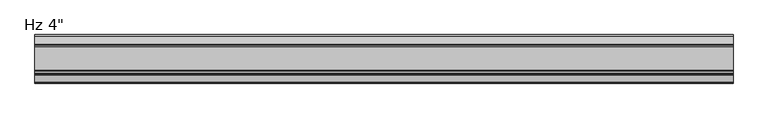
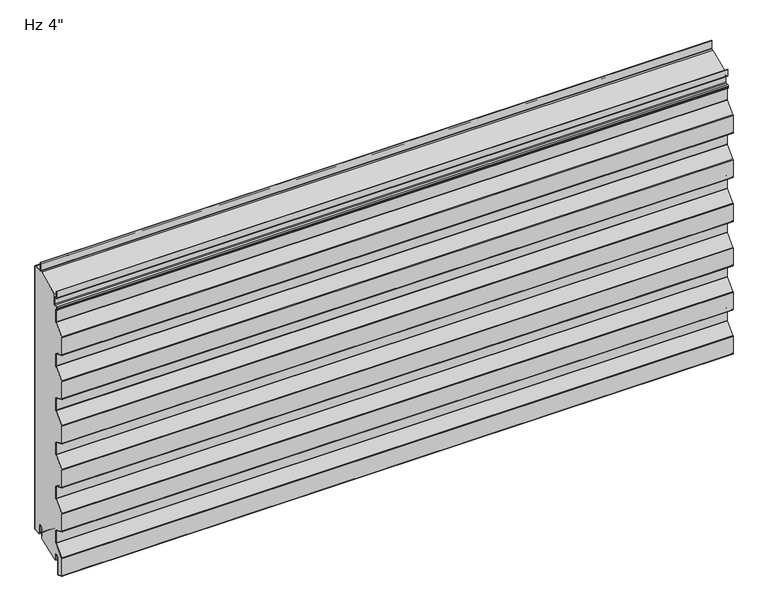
"""IFC4 building model written with IfcOpenShell, lengths in millimetres: plate geometry."""

import ifcopenshell
import ifcopenshell.guid

model = None  # the IFC model being written
_history = None  # IfcOwnerHistory: only IFC2X3 demands one
_inside = {}  # id of a spatial element -> (the spatial element, [elements in it])
_under = {}  # id of a project, library or spatial element -> (it, [spatial elements below it])
_declared = {}  # id of a project -> (the project, [libraries it declares])
_typed = {}  # id of a type object -> (the type object, [elements of that type])
_made_of = {}  # id of a material, layer set ... -> (it, [elements and type objects made of it])


def new_model(schema):
    """Start an empty IFC model of exactly this schema.

    Asked for "IFC4X3", IfcOpenShell would pick the latest addendum, in which some entities
    have other attributes; the version numbers below select the first issue.
    IFC2X3 requires an IfcOwnerHistory on every rooted entity: one is made here for all.
    """
    global model, _history
    if schema == "IFC4X3":
        model = ifcopenshell.file(schema_version=(4, 3, 0, 0))
    else:
        model = ifcopenshell.file(schema=schema)
    _inside.clear()
    _under.clear()
    _declared.clear()
    _typed.clear()
    _made_of.clear()
    _history = None
    if model.schema == "IFC2X3":
        org = make("IfcOrganization", Name="unknown")
        user = make(
            "IfcPersonAndOrganization",
            ThePerson=make("IfcPerson", FamilyName="unknown"),
            TheOrganization=org,
        )
        app = make(
            "IfcApplication",
            ApplicationDeveloper=org,
            Version="unknown",
            ApplicationFullName="unknown",
            ApplicationIdentifier="unknown",
        )
        _history = make(
            "IfcOwnerHistory",
            OwningUser=user,
            OwningApplication=app,
            ChangeAction="ADDED",
            CreationDate=0,
        )
    return model


def make(cls, **values):
    """One entity of the class cls with the attributes given. An attribute that is None is left unset."""
    return model.create_entity(
        cls, **{name: value for name, value in values.items() if value is not None}
    )


def rooted(cls, **values):
    """An entity with a GlobalId (a new one), such as an element, a storey or a relation."""
    return make(cls, GlobalId=ifcopenshell.guid.new(), OwnerHistory=_history, **values)


def si_unit(unit_type, name, prefix=None):
    """IfcSIUnit, for example si_unit("LENGTHUNIT", "METRE", prefix="MILLI")."""
    return make("IfcSIUnit", UnitType=unit_type, Prefix=prefix, Name=name)


def assignment(units):
    """IfcUnitAssignment: the units of a project."""
    return None if units is None else make("IfcUnitAssignment", Units=units)


def point(xyz):
    """IfcCartesianPoint."""
    return None if xyz is None else make("IfcCartesianPoint", Coordinates=xyz)


def direction(xyz):
    """IfcDirection."""
    return None if xyz is None else make("IfcDirection", DirectionRatios=xyz)


def frame(location, z_axis=None, x_axis=None):
    """IfcAxis2Placement3D, a coordinate frame: its origin and axes. An axis left out is left unset."""
    return make(
        "IfcAxis2Placement3D",
        Location=point(location),
        Axis=direction(z_axis),
        RefDirection=direction(x_axis),
    )


def frame_2d(location, x_axis=None):
    """IfcAxis2Placement2D, a coordinate frame in the plane: its origin and x axis."""
    return make(
        "IfcAxis2Placement2D", Location=point(location), RefDirection=direction(x_axis)
    )


def origin():
    """The frame at (0, 0, 0) with its axes left unset."""
    return frame((0.0, 0.0, 0.0))


def place(relative_to, where):
    """IfcLocalPlacement: puts the frame where relative to a parent placement (None: the world)."""
    return make(
        "IfcLocalPlacement", PlacementRelTo=relative_to, RelativePlacement=where
    )


def context(
    kind, dimensions, precision=None, world=None, true_north=None, identifier=None
):
    """IfcGeometricRepresentationContext, for example the 3D "Model" context."""
    return make(
        "IfcGeometricRepresentationContext",
        ContextIdentifier=identifier,
        ContextType=kind,
        CoordinateSpaceDimension=dimensions,
        Precision=precision,
        WorldCoordinateSystem=world,
        TrueNorth=true_north,
    )


def project(units=None, contexts=None):
    """IfcProject with its units and contexts."""
    return rooted(
        "IfcProject",
        Name="project",
        RepresentationContexts=contexts,
        UnitsInContext=assignment(units),
    )


def spatial(cls, under=None, at=None, **own):
    """A site, building, storey or space (cls), placed at a placement, below another one or the project."""
    s = rooted(cls, ObjectPlacement=at, **own)
    if under is not None:
        _under.setdefault(under.id(), (under, []))[1].append(s)
    return s


def polyline(points):
    """IfcPolyline through the points."""
    return make("IfcPolyline", Points=[point(p) for p in points])


def circle_curve(where, radius):
    """IfcCircle in the frame where."""
    return make("IfcCircle", Position=where, Radius=radius)


def trimmed(basis, trim1, trim2, sense, master):
    """IfcTrimmedCurve: the piece of a basis curve between two trims."""
    return make(
        "IfcTrimmedCurve",
        BasisCurve=basis,
        Trim1=trim1,
        Trim2=trim2,
        SenseAgreement=sense,
        MasterRepresentation=master,
    )


def segment(curve, same_sense, transition):
    """IfcCompositeCurveSegment."""
    return make(
        "IfcCompositeCurveSegment",
        Transition=transition,
        SameSense=same_sense,
        ParentCurve=curve,
    )


def composite_curve(segments, self_intersect=None):
    """IfcCompositeCurve: segments joined end to end."""
    return make("IfcCompositeCurve", Segments=segments, SelfIntersect=self_intersect)


def outline(outer, holes=None, kind="AREA"):
    """IfcArbitraryClosedProfileDef: a profile drawn as a closed curve; with holes, ...WithVoids."""
    if holes is None:
        return make("IfcArbitraryClosedProfileDef", ProfileType=kind, OuterCurve=outer)
    return make(
        "IfcArbitraryProfileDefWithVoids",
        ProfileType=kind,
        OuterCurve=outer,
        InnerCurves=holes,
    )


def extrude(swept, where, along, depth):
    """IfcExtrudedAreaSolid: the profile swept, set in the frame where, extruded along a direction by depth."""
    return make(
        "IfcExtrudedAreaSolid",
        SweptArea=swept,
        Position=where,
        ExtrudedDirection=direction(along),
        Depth=depth,
    )


def shape(context_of_items, identifier, shape_type, items):
    """IfcShapeRepresentation: the items that make up one representation, for example the "Body"."""
    return make(
        "IfcShapeRepresentation",
        ContextOfItems=context_of_items,
        RepresentationIdentifier=identifier,
        RepresentationType=shape_type,
        Items=items,
    )


def source(mapping_origin, context_of_items, identifier, shape_type, items):
    """IfcRepresentationMap: a shape defined once, which mapped items show again and again."""
    return make(
        "IfcRepresentationMap",
        MappingOrigin=mapping_origin,
        MappedRepresentation=shape(context_of_items, identifier, shape_type, items),
    )


def transform(
    local_origin,
    x_axis=None,
    y_axis=None,
    z_axis=None,
    scale=None,
    scale2=None,
    scale3=None,
    uniform=True,
):
    """IfcCartesianTransformationOperator3D, or its non-uniform kind. x_axis, y_axis, z_axis: its Axis1, 2, 3."""
    if uniform:
        return make(
            "IfcCartesianTransformationOperator3D",
            Axis1=direction(x_axis),
            Axis2=direction(y_axis),
            LocalOrigin=point(local_origin),
            Scale=scale,
            Axis3=direction(z_axis),
        )
    return make(
        "IfcCartesianTransformationOperator3DnonUniform",
        Axis1=direction(x_axis),
        Axis2=direction(y_axis),
        LocalOrigin=point(local_origin),
        Scale=scale,
        Axis3=direction(z_axis),
        Scale2=scale2,
        Scale3=scale3,
    )


def mapped(mapping_source, mapping_target):
    """IfcMappedItem: shows the shape of a source again, moved by a transform."""
    return make(
        "IfcMappedItem", MappingSource=mapping_source, MappingTarget=mapping_target
    )


def made_of(thing, what):
    """Note that an element or type object is made of a material, layer set ...; save() writes the relation."""
    if what is not None:
        _made_of.setdefault(what.id(), (what, []))[1].append(thing)
    return thing


def element(
    cls,
    number,
    at=None,
    inside=None,
    cuts=None,
    type_object=None,
    material=None,
    context=None,
    identifier="Body",
    shape_type=None,
    held_by="IfcProductDefinitionShape",
    body=None,
    shapes=None,
    **own,
):
    """One element of the class cls, such as IfcWall. Its Tag is "e" and its number.

    at: its placement. inside: the storey or other place that contains it. cuts: it is an
    opening in that element (IfcRelVoidsElement). A single representation is given by context,
    identifier, shape_type and body (its items); several are given by shapes. held_by: the class
    of the entity that holds the representations. save() writes the other relations.
    """
    e = rooted(cls, Tag="e%d" % number, ObjectPlacement=at, **own)
    if body is not None:
        shapes = [shape(context, identifier, shape_type, body)]
    if shapes is not None:
        e.Representation = make(held_by, Representations=shapes)
    if inside is not None:
        _inside.setdefault(inside.id(), (inside, []))[1].append(e)
    if cuts is not None:
        rooted(
            "IfcRelVoidsElement", RelatingBuildingElement=cuts, RelatedOpeningElement=e
        )
    if type_object is not None:
        _typed.setdefault(type_object.id(), (type_object, []))[1].append(e)
    return made_of(e, material)


def aggregate(whole, parts):
    """IfcRelAggregates: a whole, such as a stair, and the parts it consists of."""
    return rooted("IfcRelAggregates", RelatingObject=whole, RelatedObjects=parts)


def save(model, path):
    """Write the relations noted so far, then the file.

    IfcRelAggregates (storeys below a building ...), IfcRelContainedInSpatialStructure (elements
    in a storey), IfcRelDefinesByType, IfcRelAssociatesMaterial and IfcRelDeclares: one each for
    every whole, place, type object, material and project.
    """
    for whole, parts in _under.values():
        aggregate(whole, parts)
    for where, things in _inside.values():
        rooted(
            "IfcRelContainedInSpatialStructure",
            RelatedElements=things,
            RelatingStructure=where,
        )
    for kind, things in _typed.values():
        rooted("IfcRelDefinesByType", RelatedObjects=things, RelatingType=kind)
    for what, things in _made_of.values():
        rooted("IfcRelAssociatesMaterial", RelatedObjects=things, RelatingMaterial=what)
    for by, libraries in _declared.values():
        rooted("IfcRelDeclares", RelatingContext=by, RelatedDefinitions=libraries)
    model.write(path)


def plate_ecc888f3(model_context):
    return source(origin(), model_context, "Body", "SweptSolid", [
        extrude(outline(composite_curve([segment(polyline([(-26.4011912, 19.05), (-26.4011912, -3.1976612), (-74.633822, -23.01875), (-76.7886912, -23.01875), (-76.7886912, -11.90625)]), True, "CONTINUOUS"), segment(trimmed(circle_curve(frame_2d((-81.7574412, -11.90625)), 4.96875), [point((-76.7886912, -11.90625))], [point((-86.7261912, -11.90625))], True, "CARTESIAN"), True, "CONTINUOUS"), segment(polyline([(-86.7261912, -11.90625), (-86.7261912, -48.8194049)]), True, "CONTINUOUS"), segment(trimmed(circle_curve(frame_2d((-88.1074412, -48.8194049)), 1.38125), [point((-86.7261912, -48.8194049))], [point((-88.6666208, -50.0824052))], False, "CARTESIAN"), True, "CONTINUOUS"), segment(polyline([(-88.6666208, -50.0824052), (-99.7779296, -45.1629946)]), True, "CONTINUOUS"), segment(trimmed(circle_curve(frame_2d((-99.21875, -43.8999943)), 1.38125), [point((-99.7779296, -45.1629946))], [point((-100.6, -43.8999943))], False, "CARTESIAN"), True, "CONTINUOUS"), segment(polyline([(-100.6, -43.8999943), (-100.6, -5.0536946)]), True, "CONTINUOUS"), segment(trimmed(circle_curve(frame_2d((-98.5012, -5.0536946)), 2.0988), [point((-100.6, -5.0536946))], [point((-100.0092077, -3.5939431))], False, "CARTESIAN"), True, "CONTINUOUS"), segment(polyline([(-100.0092077, -3.5939431), (-79.8145567, 17.2682996)]), True, "CONTINUOUS"), segment(trimmed(circle_curve(frame_2d((-81.6737, 19.0679503)), 2.5875), [point((-79.8145567, 17.2682996))], [point((-79.0862, 19.0679503))], True, "CARTESIAN"), True, "CONTINUOUS"), segment(polyline([(-79.0862, 19.0679503), (-79.0862, 45.5917981)]), True, "CONTINUOUS"), segment(trimmed(circle_curve(frame_2d((-81.6737, 45.5917981)), 2.5875), [point((-79.0862, 45.5917981))], [point((-80.6261871, 47.9577806))], True, "CARTESIAN"), True, "CONTINUOUS"), segment(polyline([(-80.6261871, 47.9577806), (-99.7779296, 56.4370054)]), True, "CONTINUOUS"), segment(trimmed(circle_curve(frame_2d((-99.21875, 57.7000057)), 1.38125), [point((-99.7779296, 56.4370054))], [point((-100.6, 57.7000057))], False, "CARTESIAN"), True, "CONTINUOUS"), segment(polyline([(-100.6, 57.7000057), (-100.6, 96.8367131)]), True, "CONTINUOUS"), segment(trimmed(circle_curve(frame_2d((-99.21875, 96.8367131)), 1.38125), [point((-100.6, 96.8367131))], [point((-100.2111912, 97.7973962))], False, "CARTESIAN"), True, "CONTINUOUS"), segment(polyline([(-100.2111912, 97.7973962), (-79.8145567, 118.8682996)]), True, "CONTINUOUS"), segment(trimmed(circle_curve(frame_2d((-81.6737, 120.6679503)), 2.5875), [point((-79.8145567, 118.8682996))], [point((-79.0862, 120.6679503))], True, "CARTESIAN"), True, "CONTINUOUS"), segment(polyline([(-79.0862, 120.6679503), (-79.0862, 147.1917981)]), True, "CONTINUOUS"), segment(trimmed(circle_curve(frame_2d((-81.6737, 147.1917981)), 2.5875), [point((-79.0862, 147.1917981))], [point((-80.6261871, 149.5577806))], True, "CARTESIAN"), True, "CONTINUOUS"), segment(polyline([(-80.6261871, 149.5577806), (-99.7779296, 158.0370054)]), True, "CONTINUOUS"), segment(trimmed(circle_curve(frame_2d((-99.21875, 159.3000057)), 1.38125), [point((-99.7779296, 158.0370054))], [point((-100.6, 159.3000057))], False, "CARTESIAN"), True, "CONTINUOUS"), segment(polyline([(-100.6, 159.3000057), (-100.6, 198.4367131)]), True, "CONTINUOUS"), segment(trimmed(circle_curve(frame_2d((-99.21875, 198.4367131)), 1.38125), [point((-100.6, 198.4367131))], [point((-100.2111912, 199.3973962))], False, "CARTESIAN"), True, "CONTINUOUS"), segment(polyline([(-100.2111912, 199.3973962), (-79.8145567, 220.4682996)]), True, "CONTINUOUS"), segment(trimmed(circle_curve(frame_2d((-81.6737, 222.2679503)), 2.5875), [point((-79.8145567, 220.4682996))], [point((-79.0862, 222.2679503))], True, "CARTESIAN"), True, "CONTINUOUS"), segment(polyline([(-79.0862, 222.2679503), (-79.0862, 248.7917981)]), True, "CONTINUOUS"), segment(trimmed(circle_curve(frame_2d((-81.6737, 248.7917981)), 2.5875), [point((-79.0862, 248.7917981))], [point((-80.6261871, 251.1577806))], True, "CARTESIAN"), True, "CONTINUOUS"), segment(polyline([(-80.6261871, 251.1577806), (-99.7779296, 259.6370054)]), True, "CONTINUOUS"), segment(trimmed(circle_curve(frame_2d((-99.21875, 260.9000057)), 1.38125), [point((-99.7779296, 259.6370054))], [point((-100.6, 260.9000057))], False, "CARTESIAN"), True, "CONTINUOUS"), segment(polyline([(-100.6, 260.9000057), (-100.6, 300.0367131)]), True, "CONTINUOUS"), segment(trimmed(circle_curve(frame_2d((-99.21875, 300.0367131)), 1.38125), [point((-100.6, 300.0367131))], [point((-100.2111912, 300.9973962))], False, "CARTESIAN"), True, "CONTINUOUS"), segment(polyline([(-100.2111912, 300.9973962), (-79.8145567, 322.0682996)]), True, "CONTINUOUS"), segment(trimmed(circle_curve(frame_2d((-81.6737, 323.8679503)), 2.5875), [point((-79.8145567, 322.0682996))], [point((-79.0862, 323.8679503))], True, "CARTESIAN"), True, "CONTINUOUS"), segment(polyline([(-79.0862, 323.8679503), (-79.0862, 350.3917981)]), True, "CONTINUOUS"), segment(trimmed(circle_curve(frame_2d((-81.6737, 350.3917981)), 2.5875), [point((-79.0862, 350.3917981))], [point((-80.6261871, 352.7577806))], True, "CARTESIAN"), True, "CONTINUOUS"), segment(polyline([(-80.6261871, 352.7577806), (-99.7779296, 361.2370054)]), True, "CONTINUOUS"), segment(trimmed(circle_curve(frame_2d((-99.21875, 362.5000057)), 1.38125), [point((-99.7779296, 361.2370054))], [point((-100.6, 362.5000057))], False, "CARTESIAN"), True, "CONTINUOUS"), segment(polyline([(-100.6, 362.5000057), (-100.6, 401.6367131)]), True, "CONTINUOUS"), segment(trimmed(circle_curve(frame_2d((-99.21875, 401.6367131)), 1.38125), [point((-100.6, 401.6367131))], [point((-100.2111912, 402.5973962))], False, "CARTESIAN"), True, "CONTINUOUS"), segment(polyline([(-100.2111912, 402.5973962), (-79.8145567, 423.6682996)]), True, "CONTINUOUS"), segment(trimmed(circle_curve(frame_2d((-81.6737, 425.4679503)), 2.5875), [point((-79.8145567, 423.6682996))], [point((-79.0862, 425.4679503))], True, "CARTESIAN"), True, "CONTINUOUS"), segment(polyline([(-79.0862, 425.4679503), (-79.0862, 451.9917981)]), True, "CONTINUOUS"), segment(trimmed(circle_curve(frame_2d((-81.6737, 451.9917981)), 2.5875), [point((-79.0862, 451.9917981))], [point((-80.6261871, 454.3577806))], True, "CARTESIAN"), True, "CONTINUOUS"), segment(polyline([(-80.6261871, 454.3577806), (-99.7779296, 462.8370054)]), True, "CONTINUOUS"), segment(trimmed(circle_curve(frame_2d((-99.21875, 464.1000057)), 1.38125), [point((-99.7779296, 462.8370054))], [point((-100.6, 464.1000057))], False, "CARTESIAN"), True, "CONTINUOUS"), segment(polyline([(-100.6, 464.1000057), (-100.6, 503.2367131)]), True, "CONTINUOUS"), segment(trimmed(circle_curve(frame_2d((-99.21875, 503.2367131)), 1.38125), [point((-100.6, 503.2367131))], [point((-100.2111912, 504.1973962))], False, "CARTESIAN"), True, "CONTINUOUS"), segment(polyline([(-100.2111912, 504.1973962), (-79.8145567, 525.2682996)]), True, "CONTINUOUS"), segment(trimmed(circle_curve(frame_2d((-81.6737, 527.0679503)), 2.5875), [point((-79.8145567, 525.2682996))], [point((-79.0862, 527.0679503))], True, "CARTESIAN"), True, "CONTINUOUS"), segment(polyline([(-79.0862, 527.0679503), (-79.0862, 553.5917981)]), True, "CONTINUOUS"), segment(trimmed(circle_curve(frame_2d((-81.6737, 553.5917981)), 2.5875), [point((-79.0862, 553.5917981))], [point((-80.6261871, 555.9577806))], True, "CARTESIAN"), True, "CONTINUOUS"), segment(polyline([(-80.6261871, 555.9577806), (-82.3166208, 556.7062016)]), True, "CONTINUOUS"), segment(trimmed(circle_curve(frame_2d((-81.7574412, 557.9692019)), 1.38125), [point((-82.3166208, 556.7062016))], [point((-83.1386912, 557.9692019))], False, "CARTESIAN"), True, "CONTINUOUS"), segment(polyline([(-83.1386912, 557.9692019), (-83.1386912, 560.2967085)]), True, "CONTINUOUS"), segment(trimmed(circle_curve(frame_2d((-81.7574412, 560.2967085)), 1.38125), [point((-83.1386912, 560.2967085))], [point((-81.8297302, 561.6760655))], False, "CARTESIAN"), True, "CONTINUOUS"), segment(polyline([(-81.8297302, 561.6760655), (-76.0657719, 561.9781418)]), True, "CONTINUOUS"), segment(trimmed(circle_curve(frame_2d((-76.2011912, 564.5620957)), 2.5875), [point((-76.0657719, 561.9781418))], [point((-73.6136912, 564.5620957))], True, "CARTESIAN"), True, "CONTINUOUS"), segment(polyline([(-73.6136912, 564.5620957), (-73.6136912, 586.9892934), (-24.8719682, 607.80625), (-2.3824412, 607.80625)]), True, "CONTINUOUS"), segment(trimmed(circle_curve(frame_2d((-2.3824412, 606.425)), 1.38125), [point((-2.3824412, 607.80625))], [point((-1.0011912, 606.425))], False, "CARTESIAN"), True, "CONTINUOUS"), segment(polyline([(-1.0011912, 606.425), (-1.0011912, 3.175)]), True, "CONTINUOUS"), segment(trimmed(circle_curve(frame_2d((-2.3824412, 3.175)), 1.38125), [point((-1.0011912, 3.175))], [point((-2.3824412, 1.79375))], False, "CARTESIAN"), True, "CONTINUOUS"), segment(polyline([(-2.3824412, 1.79375), (-15.0824412, 1.79375)]), True, "CONTINUOUS"), segment(trimmed(circle_curve(frame_2d((-15.0824412, 3.175)), 1.38125), [point((-15.0824412, 1.79375))], [point((-16.4636912, 3.175))], False, "CARTESIAN"), True, "CONTINUOUS"), segment(polyline([(-16.4636912, 3.175), (-16.4636912, 19.05)]), True, "CONTINUOUS"), segment(trimmed(circle_curve(frame_2d((-21.4324412, 19.05)), 4.96875), [point((-16.4636912, 19.05))], [point((-26.4011912, 19.05))], True, "CARTESIAN"), True, "CONTINUOUS")], self_intersect=False)), frame((-730.0, 0.0, 0.0), z_axis=(1.0, 0.0, 0.0), x_axis=(0.0, 1.0, 0.0)), (0.0, 0.0, 1.0), 1460.0),
        extrude(outline(composite_curve([segment(polyline([(-25.4, 0.79375), (-26.4, 0.79375), (-26.4, 19.05)]), True, "CONTINUOUS"), segment(trimmed(circle_curve(frame_2d((-21.43125, 19.05)), 4.96875), [point((-26.4, 19.05))], [point((-16.4625, 19.05))], False, "CARTESIAN"), True, "CONTINUOUS"), segment(polyline([(-16.4625, 19.05), (-16.4625, 3.175)]), True, "CONTINUOUS"), segment(trimmed(circle_curve(frame_2d((-15.08125, 3.175)), 1.38125), [point((-16.4625, 3.175))], [point((-15.08125, 1.79375))], True, "CARTESIAN"), True, "CONTINUOUS"), segment(polyline([(-15.08125, 1.79375), (-2.38125, 1.79375)]), True, "CONTINUOUS"), segment(trimmed(circle_curve(frame_2d((-2.38125, 3.175)), 1.38125), [point((-2.38125, 1.79375))], [point((-1.0, 3.175))], True, "CARTESIAN"), True, "CONTINUOUS"), segment(polyline([(-1.0, 3.175), (-1.0, 606.425)]), True, "CONTINUOUS"), segment(trimmed(circle_curve(frame_2d((-2.38125, 606.425)), 1.38125), [point((-1.0, 606.425))], [point((-2.38125, 607.80625))], True, "CARTESIAN"), True, "CONTINUOUS"), segment(polyline([(-2.38125, 607.80625), (-19.446875, 607.80625)]), True, "CONTINUOUS"), segment(trimmed(circle_curve(frame_2d((-19.446875, 610.39375)), 2.5875), [point((-19.446875, 607.80625))], [point((-22.034375, 610.39375))], False, "CARTESIAN"), True, "CONTINUOUS"), segment(polyline([(-22.034375, 610.39375), (-22.034375, 627.85625), (-21.034375, 627.85625), (-21.034375, 610.39375)]), True, "CONTINUOUS"), segment(trimmed(circle_curve(frame_2d((-19.446875, 610.39375)), 1.5875), [point((-21.034375, 610.39375))], [point((-19.446875, 608.80625))], True, "CARTESIAN"), True, "CONTINUOUS"), segment(polyline([(-19.446875, 608.80625), (-2.38125, 608.80625)]), True, "CONTINUOUS"), segment(trimmed(circle_curve(frame_2d((-2.38125, 606.425)), 2.38125), [point((-2.38125, 608.80625))], [point((0.0, 606.425))], False, "CARTESIAN"), True, "CONTINUOUS"), segment(polyline([(0.0, 606.425), (0.0, 3.175)]), True, "CONTINUOUS"), segment(trimmed(circle_curve(frame_2d((-2.38125, 3.175)), 2.38125), [point((0.0, 3.175))], [point((-2.38125, 0.79375))], False, "CARTESIAN"), True, "CONTINUOUS"), segment(polyline([(-2.38125, 0.79375), (-15.08125, 0.79375)]), True, "CONTINUOUS"), segment(trimmed(circle_curve(frame_2d((-15.08125, 3.175)), 2.38125), [point((-15.08125, 0.79375))], [point((-17.4625, 3.175))], False, "CARTESIAN"), True, "CONTINUOUS"), segment(polyline([(-17.4625, 3.175), (-17.4625, 19.05)]), True, "CONTINUOUS"), segment(trimmed(circle_curve(frame_2d((-21.43125, 19.05)), 3.96875), [point((-17.4625, 19.05))], [point((-25.4, 19.05))], True, "CARTESIAN"), True, "CONTINUOUS"), segment(polyline([(-25.4, 19.05), (-25.4, 0.79375)]), True, "CONTINUOUS")], self_intersect=False)), frame((-730.0, 0.0, 0.0), z_axis=(1.0, 0.0, 0.0), x_axis=(0.0, 1.0, 0.0)), (0.0, 0.0, 1.0), 1460.0),
        extrude(outline(composite_curve([segment(polyline([(-85.7261912, -11.90625), (-85.7261912, -48.8194049)]), True, "CONTINUOUS"), segment(trimmed(circle_curve(frame_2d((-88.1074412, -48.8194049)), 2.38125), [point((-85.7261912, -48.8194049))], [point((-89.0714567, -50.9967946))], False, "CARTESIAN"), True, "CONTINUOUS"), segment(polyline([(-89.0714567, -50.9967946), (-100.1827655, -46.0773839)]), True, "CONTINUOUS"), segment(trimmed(circle_curve(frame_2d((-99.21875, -43.8999943)), 2.38125), [point((-100.1827655, -46.0773839))], [point((-101.6, -43.8999943))], False, "CARTESIAN"), True, "CONTINUOUS"), segment(polyline([(-101.6, -43.8999943), (-101.6, -5.0536946)]), True, "CONTINUOUS"), segment(trimmed(circle_curve(frame_2d((-98.5012, -5.0536946)), 3.0988), [point((-101.6, -5.0536946))], [point((-100.7277172, -2.8984259))], False, "CARTESIAN"), True, "CONTINUOUS"), segment(polyline([(-100.7277172, -2.8984259), (-80.5330662, 17.9638168)]), True, "CONTINUOUS"), segment(trimmed(circle_curve(frame_2d((-81.6737, 19.0679503)), 1.5875), [point((-80.5330662, 17.9638168))], [point((-80.0862, 19.0679503))], True, "CARTESIAN"), True, "CONTINUOUS"), segment(polyline([(-80.0862, 19.0679503), (-80.0862, 45.5917981)]), True, "CONTINUOUS"), segment(trimmed(circle_curve(frame_2d((-81.6737, 45.5917981)), 1.5875), [point((-80.0862, 45.5917981))], [point((-81.031023, 47.0433912))], True, "CARTESIAN"), True, "CONTINUOUS"), segment(polyline([(-81.031023, 47.0433912), (-100.1827655, 55.5226161)]), True, "CONTINUOUS"), segment(trimmed(circle_curve(frame_2d((-99.21875, 57.7000057)), 2.38125), [point((-100.1827655, 55.5226161))], [point((-101.6, 57.7000057))], False, "CARTESIAN"), True, "CONTINUOUS"), segment(polyline([(-101.6, 57.7000057), (-101.6, 96.8367131)]), True, "CONTINUOUS"), segment(trimmed(circle_curve(frame_2d((-99.21875, 96.8367131)), 2.38125), [point((-101.6, 96.8367131))], [point((-100.9297007, 98.4929134))], False, "CARTESIAN"), True, "CONTINUOUS"), segment(polyline([(-100.9297007, 98.4929134), (-80.5330662, 119.5638168)]), True, "CONTINUOUS"), segment(trimmed(circle_curve(frame_2d((-81.6737, 120.6679503)), 1.5875), [point((-80.5330662, 119.5638168))], [point((-80.0862, 120.6679503))], True, "CARTESIAN"), True, "CONTINUOUS"), segment(polyline([(-80.0862, 120.6679503), (-80.0862, 147.1917981)]), True, "CONTINUOUS"), segment(trimmed(circle_curve(frame_2d((-81.6737, 147.1917981)), 1.5875), [point((-80.0862, 147.1917981))], [point((-81.031023, 148.6433912))], True, "CARTESIAN"), True, "CONTINUOUS"), segment(polyline([(-81.031023, 148.6433912), (-100.1827655, 157.1226161)]), True, "CONTINUOUS"), segment(trimmed(circle_curve(frame_2d((-99.21875, 159.3000057)), 2.38125), [point((-100.1827655, 157.1226161))], [point((-101.6, 159.3000057))], False, "CARTESIAN"), True, "CONTINUOUS"), segment(polyline([(-101.6, 159.3000057), (-101.6, 198.4367131)]), True, "CONTINUOUS"), segment(trimmed(circle_curve(frame_2d((-99.21875, 198.4367131)), 2.38125), [point((-101.6, 198.4367131))], [point((-100.9297007, 200.0929134))], False, "CARTESIAN"), True, "CONTINUOUS"), segment(polyline([(-100.9297007, 200.0929134), (-80.5330662, 221.1638168)]), True, "CONTINUOUS"), segment(trimmed(circle_curve(frame_2d((-81.6737, 222.2679503)), 1.5875), [point((-80.5330662, 221.1638168))], [point((-80.0862, 222.2679503))], True, "CARTESIAN"), True, "CONTINUOUS"), segment(polyline([(-80.0862, 222.2679503), (-80.0862, 248.7917981)]), True, "CONTINUOUS"), segment(trimmed(circle_curve(frame_2d((-81.6737, 248.7917981)), 1.5875), [point((-80.0862, 248.7917981))], [point((-81.031023, 250.2433912))], True, "CARTESIAN"), True, "CONTINUOUS"), segment(polyline([(-81.031023, 250.2433912), (-100.1827655, 258.7226161)]), True, "CONTINUOUS"), segment(trimmed(circle_curve(frame_2d((-99.21875, 260.9000057)), 2.38125), [point((-100.1827655, 258.7226161))], [point((-101.6, 260.9000057))], False, "CARTESIAN"), True, "CONTINUOUS"), segment(polyline([(-101.6, 260.9000057), (-101.6, 300.0367131)]), True, "CONTINUOUS"), segment(trimmed(circle_curve(frame_2d((-99.21875, 300.0367131)), 2.38125), [point((-101.6, 300.0367131))], [point((-100.9297007, 301.6929134))], False, "CARTESIAN"), True, "CONTINUOUS"), segment(polyline([(-100.9297007, 301.6929134), (-80.5330662, 322.7638168)]), True, "CONTINUOUS"), segment(trimmed(circle_curve(frame_2d((-81.6737, 323.8679503)), 1.5875), [point((-80.5330662, 322.7638168))], [point((-80.0862, 323.8679503))], True, "CARTESIAN"), True, "CONTINUOUS"), segment(polyline([(-80.0862, 323.8679503), (-80.0862, 350.3917981)]), True, "CONTINUOUS"), segment(trimmed(circle_curve(frame_2d((-81.6737, 350.3917981)), 1.5875), [point((-80.0862, 350.3917981))], [point((-81.031023, 351.8433912))], True, "CARTESIAN"), True, "CONTINUOUS"), segment(polyline([(-81.031023, 351.8433912), (-100.1827655, 360.3226161)]), True, "CONTINUOUS"), segment(trimmed(circle_curve(frame_2d((-99.21875, 362.5000057)), 2.38125), [point((-100.1827655, 360.3226161))], [point((-101.6, 362.5000057))], False, "CARTESIAN"), True, "CONTINUOUS"), segment(polyline([(-101.6, 362.5000057), (-101.6, 401.6367131)]), True, "CONTINUOUS"), segment(trimmed(circle_curve(frame_2d((-99.21875, 401.6367131)), 2.38125), [point((-101.6, 401.6367131))], [point((-100.9297007, 403.2929134))], False, "CARTESIAN"), True, "CONTINUOUS"), segment(polyline([(-100.9297007, 403.2929134), (-80.5330662, 424.3638168)]), True, "CONTINUOUS"), segment(trimmed(circle_curve(frame_2d((-81.6737, 425.4679503)), 1.5875), [point((-80.5330662, 424.3638168))], [point((-80.0862, 425.4679503))], True, "CARTESIAN"), True, "CONTINUOUS"), segment(polyline([(-80.0862, 425.4679503), (-80.0862, 451.9917981)]), True, "CONTINUOUS"), segment(trimmed(circle_curve(frame_2d((-81.6737, 451.9917981)), 1.5875), [point((-80.0862, 451.9917981))], [point((-81.031023, 453.4433912))], True, "CARTESIAN"), True, "CONTINUOUS"), segment(polyline([(-81.031023, 453.4433912), (-100.1827655, 461.9226161)]), True, "CONTINUOUS"), segment(trimmed(circle_curve(frame_2d((-99.21875, 464.1000057)), 2.38125), [point((-100.1827655, 461.9226161))], [point((-101.6, 464.1000057))], False, "CARTESIAN"), True, "CONTINUOUS"), segment(polyline([(-101.6, 464.1000057), (-101.6, 503.2367131)]), True, "CONTINUOUS"), segment(trimmed(circle_curve(frame_2d((-99.21875, 503.2367131)), 2.38125), [point((-101.6, 503.2367131))], [point((-100.9297007, 504.8929134))], False, "CARTESIAN"), True, "CONTINUOUS"), segment(polyline([(-100.9297007, 504.8929134), (-80.5330662, 525.9638168)]), True, "CONTINUOUS"), segment(trimmed(circle_curve(frame_2d((-81.6737, 527.0679503)), 1.5875), [point((-80.5330662, 525.9638168))], [point((-80.0862, 527.0679503))], True, "CARTESIAN"), True, "CONTINUOUS"), segment(polyline([(-80.0862, 527.0679503), (-80.0862, 553.5917981)]), True, "CONTINUOUS"), segment(trimmed(circle_curve(frame_2d((-81.6737, 553.5917981)), 1.5875), [point((-80.0862, 553.5917981))], [point((-81.031023, 555.0433912))], True, "CARTESIAN"), True, "CONTINUOUS"), segment(polyline([(-81.031023, 555.0433912), (-82.7214567, 555.7918123)]), True, "CONTINUOUS"), segment(trimmed(circle_curve(frame_2d((-81.7574412, 557.9692019)), 2.38125), [point((-82.7214567, 555.7918123))], [point((-84.1386912, 557.9692019))], False, "CARTESIAN"), True, "CONTINUOUS"), segment(polyline([(-84.1386912, 557.9692019), (-84.1386912, 560.2967085)]), True, "CONTINUOUS"), segment(trimmed(circle_curve(frame_2d((-81.7574412, 560.2967085)), 2.38125), [point((-84.1386912, 560.2967085))], [point((-81.8820662, 562.6746951))], False, "CARTESIAN"), True, "CONTINUOUS"), segment(polyline([(-81.8820662, 562.6746951), (-76.1181078, 562.9767713)]), True, "CONTINUOUS"), segment(trimmed(circle_curve(frame_2d((-76.2011912, 564.5620957)), 1.5875), [point((-76.1181078, 562.9767713))], [point((-74.6136912, 564.5620957))], True, "CARTESIAN"), True, "CONTINUOUS"), segment(polyline([(-74.6136912, 564.5620957), (-74.6136912, 579.4375)]), True, "CONTINUOUS"), segment(trimmed(circle_curve(frame_2d((-76.2011912, 579.4375)), 1.5875), [point((-74.6136912, 579.4375))], [point((-76.2011912, 581.025))], True, "CARTESIAN"), True, "CONTINUOUS"), segment(polyline([(-76.2011912, 581.025), (-79.7730662, 581.025)]), True, "CONTINUOUS"), segment(trimmed(circle_curve(frame_2d((-79.7730662, 583.40625)), 2.38125), [point((-79.7730662, 581.025))], [point((-82.1543162, 583.40625))], False, "CARTESIAN"), True, "CONTINUOUS"), segment(polyline([(-82.1543162, 583.40625), (-82.1543162, 597.69375), (-81.1543162, 597.69375), (-81.1543162, 583.40625)]), True, "CONTINUOUS"), segment(trimmed(circle_curve(frame_2d((-79.7730662, 583.40625)), 1.38125), [point((-81.1543162, 583.40625))], [point((-79.7730662, 582.025))], True, "CARTESIAN"), True, "CONTINUOUS"), segment(polyline([(-79.7730662, 582.025), (-76.2011912, 582.025)]), True, "CONTINUOUS"), segment(trimmed(circle_curve(frame_2d((-76.2011912, 579.4375)), 2.5875), [point((-76.2011912, 582.025))], [point((-73.6136912, 579.4375))], False, "CARTESIAN"), True, "CONTINUOUS"), segment(polyline([(-73.6136912, 579.4375), (-73.6136912, 564.5620957)]), True, "CONTINUOUS"), segment(trimmed(circle_curve(frame_2d((-76.2011912, 564.5620957)), 2.5875), [point((-73.6136912, 564.5620957))], [point((-76.0657719, 561.9781418))], False, "CARTESIAN"), True, "CONTINUOUS"), segment(polyline([(-76.0657719, 561.9781418), (-81.8297302, 561.6760655)]), True, "CONTINUOUS"), segment(trimmed(circle_curve(frame_2d((-81.7574412, 560.2967085)), 1.38125), [point((-81.8297302, 561.6760655))], [point((-83.1386912, 560.2967085))], True, "CARTESIAN"), True, "CONTINUOUS"), segment(polyline([(-83.1386912, 560.2967085), (-83.1386912, 557.9692019)]), True, "CONTINUOUS"), segment(trimmed(circle_curve(frame_2d((-81.7574412, 557.9692019)), 1.38125), [point((-83.1386912, 557.9692019))], [point((-82.3166208, 556.7062016))], True, "CARTESIAN"), True, "CONTINUOUS"), segment(polyline([(-82.3166208, 556.7062016), (-80.6261871, 555.9577806)]), True, "CONTINUOUS"), segment(trimmed(circle_curve(frame_2d((-81.6737, 553.5917981)), 2.5875), [point((-80.6261871, 555.9577806))], [point((-79.0862, 553.5917981))], False, "CARTESIAN"), True, "CONTINUOUS"), segment(polyline([(-79.0862, 553.5917981), (-79.0862, 527.0679503)]), True, "CONTINUOUS"), segment(trimmed(circle_curve(frame_2d((-81.6737, 527.0679503)), 2.5875), [point((-79.0862, 527.0679503))], [point((-79.8145567, 525.2682996))], False, "CARTESIAN"), True, "CONTINUOUS"), segment(polyline([(-79.8145567, 525.2682996), (-100.2111912, 504.1973962)]), True, "CONTINUOUS"), segment(trimmed(circle_curve(frame_2d((-99.21875, 503.2367131)), 1.38125), [point((-100.2111912, 504.1973962))], [point((-100.6, 503.2367131))], True, "CARTESIAN"), True, "CONTINUOUS"), segment(polyline([(-100.6, 503.2367131), (-100.6, 464.1000057)]), True, "CONTINUOUS"), segment(trimmed(circle_curve(frame_2d((-99.21875, 464.1000057)), 1.38125), [point((-100.6, 464.1000057))], [point((-99.7779296, 462.8370054))], True, "CARTESIAN"), True, "CONTINUOUS"), segment(polyline([(-99.7779296, 462.8370054), (-80.6261871, 454.3577806)]), True, "CONTINUOUS"), segment(trimmed(circle_curve(frame_2d((-81.6737, 451.9917981)), 2.5875), [point((-80.6261871, 454.3577806))], [point((-79.0862, 451.9917981))], False, "CARTESIAN"), True, "CONTINUOUS"), segment(polyline([(-79.0862, 451.9917981), (-79.0862, 425.4679503)]), True, "CONTINUOUS"), segment(trimmed(circle_curve(frame_2d((-81.6737, 425.4679503)), 2.5875), [point((-79.0862, 425.4679503))], [point((-79.8145567, 423.6682996))], False, "CARTESIAN"), True, "CONTINUOUS"), segment(polyline([(-79.8145567, 423.6682996), (-100.2111912, 402.5973962)]), True, "CONTINUOUS"), segment(trimmed(circle_curve(frame_2d((-99.21875, 401.6367131)), 1.38125), [point((-100.2111912, 402.5973962))], [point((-100.6, 401.6367131))], True, "CARTESIAN"), True, "CONTINUOUS"), segment(polyline([(-100.6, 401.6367131), (-100.6, 362.5000057)]), True, "CONTINUOUS"), segment(trimmed(circle_curve(frame_2d((-99.21875, 362.5000057)), 1.38125), [point((-100.6, 362.5000057))], [point((-99.7779296, 361.2370054))], True, "CARTESIAN"), True, "CONTINUOUS"), segment(polyline([(-99.7779296, 361.2370054), (-80.6261871, 352.7577806)]), True, "CONTINUOUS"), segment(trimmed(circle_curve(frame_2d((-81.6737, 350.3917981)), 2.5875), [point((-80.6261871, 352.7577806))], [point((-79.0862, 350.3917981))], False, "CARTESIAN"), True, "CONTINUOUS"), segment(polyline([(-79.0862, 350.3917981), (-79.0862, 323.8679503)]), True, "CONTINUOUS"), segment(trimmed(circle_curve(frame_2d((-81.6737, 323.8679503)), 2.5875), [point((-79.0862, 323.8679503))], [point((-79.8145567, 322.0682996))], False, "CARTESIAN"), True, "CONTINUOUS"), segment(polyline([(-79.8145567, 322.0682996), (-100.2111912, 300.9973962)]), True, "CONTINUOUS"), segment(trimmed(circle_curve(frame_2d((-99.21875, 300.0367131)), 1.38125), [point((-100.2111912, 300.9973962))], [point((-100.6, 300.0367131))], True, "CARTESIAN"), True, "CONTINUOUS"), segment(polyline([(-100.6, 300.0367131), (-100.6, 260.9000057)]), True, "CONTINUOUS"), segment(trimmed(circle_curve(frame_2d((-99.21875, 260.9000057)), 1.38125), [point((-100.6, 260.9000057))], [point((-99.7779296, 259.6370054))], True, "CARTESIAN"), True, "CONTINUOUS"), segment(polyline([(-99.7779296, 259.6370054), (-80.6261871, 251.1577806)]), True, "CONTINUOUS"), segment(trimmed(circle_curve(frame_2d((-81.6737, 248.7917981)), 2.5875), [point((-80.6261871, 251.1577806))], [point((-79.0862, 248.7917981))], False, "CARTESIAN"), True, "CONTINUOUS"), segment(polyline([(-79.0862, 248.7917981), (-79.0862, 222.2679503)]), True, "CONTINUOUS"), segment(trimmed(circle_curve(frame_2d((-81.6737, 222.2679503)), 2.5875), [point((-79.0862, 222.2679503))], [point((-79.8145567, 220.4682996))], False, "CARTESIAN"), True, "CONTINUOUS"), segment(polyline([(-79.8145567, 220.4682996), (-100.2111912, 199.3973962)]), True, "CONTINUOUS"), segment(trimmed(circle_curve(frame_2d((-99.21875, 198.4367131)), 1.38125), [point((-100.2111912, 199.3973962))], [point((-100.6, 198.4367131))], True, "CARTESIAN"), True, "CONTINUOUS"), segment(polyline([(-100.6, 198.4367131), (-100.6, 159.3000057)]), True, "CONTINUOUS"), segment(trimmed(circle_curve(frame_2d((-99.21875, 159.3000057)), 1.38125), [point((-100.6, 159.3000057))], [point((-99.7779296, 158.0370054))], True, "CARTESIAN"), True, "CONTINUOUS"), segment(polyline([(-99.7779296, 158.0370054), (-80.6261871, 149.5577806)]), True, "CONTINUOUS"), segment(trimmed(circle_curve(frame_2d((-81.6737, 147.1917981)), 2.5875), [point((-80.6261871, 149.5577806))], [point((-79.0862, 147.1917981))], False, "CARTESIAN"), True, "CONTINUOUS"), segment(polyline([(-79.0862, 147.1917981), (-79.0862, 120.6679503)]), True, "CONTINUOUS"), segment(trimmed(circle_curve(frame_2d((-81.6737, 120.6679503)), 2.5875), [point((-79.0862, 120.6679503))], [point((-79.8145567, 118.8682996))], False, "CARTESIAN"), True, "CONTINUOUS"), segment(polyline([(-79.8145567, 118.8682996), (-100.2111912, 97.7973962)]), True, "CONTINUOUS"), segment(trimmed(circle_curve(frame_2d((-99.21875, 96.8367131)), 1.38125), [point((-100.2111912, 97.7973962))], [point((-100.6, 96.8367131))], True, "CARTESIAN"), True, "CONTINUOUS"), segment(polyline([(-100.6, 96.8367131), (-100.6, 57.7000057)]), True, "CONTINUOUS"), segment(trimmed(circle_curve(frame_2d((-99.21875, 57.7000057)), 1.38125), [point((-100.6, 57.7000057))], [point((-99.7779296, 56.4370054))], True, "CARTESIAN"), True, "CONTINUOUS"), segment(polyline([(-99.7779296, 56.4370054), (-80.6261871, 47.9577806)]), True, "CONTINUOUS"), segment(trimmed(circle_curve(frame_2d((-81.6737, 45.5917981)), 2.5875), [point((-80.6261871, 47.9577806))], [point((-79.0862, 45.5917981))], False, "CARTESIAN"), True, "CONTINUOUS"), segment(polyline([(-79.0862, 45.5917981), (-79.0862, 19.0679503)]), True, "CONTINUOUS"), segment(trimmed(circle_curve(frame_2d((-81.6737, 19.0679503)), 2.5875), [point((-79.0862, 19.0679503))], [point((-79.8145567, 17.2682996))], False, "CARTESIAN"), True, "CONTINUOUS"), segment(polyline([(-79.8145567, 17.2682996), (-100.0092077, -3.5939431)]), True, "CONTINUOUS"), segment(trimmed(circle_curve(frame_2d((-98.5012, -5.0536946)), 2.0988), [point((-100.0092077, -3.5939431))], [point((-100.6, -5.0536946))], True, "CARTESIAN"), True, "CONTINUOUS"), segment(polyline([(-100.6, -5.0536946), (-100.6, -43.8999943)]), True, "CONTINUOUS"), segment(trimmed(circle_curve(frame_2d((-99.21875, -43.8999943)), 1.38125), [point((-100.6, -43.8999943))], [point((-99.7779296, -45.1629946))], True, "CARTESIAN"), True, "CONTINUOUS"), segment(polyline([(-99.7779296, -45.1629946), (-88.6666208, -50.0824052)]), True, "CONTINUOUS"), segment(trimmed(circle_curve(frame_2d((-88.1074412, -48.8194049)), 1.38125), [point((-88.6666208, -50.0824052))], [point((-86.7261912, -48.8194049))], True, "CARTESIAN"), True, "CONTINUOUS"), segment(polyline([(-86.7261912, -48.8194049), (-86.7261912, -11.90625)]), True, "CONTINUOUS"), segment(trimmed(circle_curve(frame_2d((-81.7574412, -11.90625)), 4.96875), [point((-86.7261912, -11.90625))], [point((-76.7886912, -11.90625))], False, "CARTESIAN"), True, "CONTINUOUS"), segment(polyline([(-76.7886912, -11.90625), (-76.7886912, -23.01875), (-77.7886912, -23.01875), (-77.7886912, -11.90625)]), True, "CONTINUOUS"), segment(trimmed(circle_curve(frame_2d((-81.7574412, -11.90625)), 3.96875), [point((-77.7886912, -11.90625))], [point((-85.7261912, -11.90625))], True, "CARTESIAN"), True, "CONTINUOUS")], self_intersect=False)), frame((-730.0, 0.0, 0.0), z_axis=(1.0, 0.0, 0.0), x_axis=(0.0, 1.0, 0.0)), (0.0, 0.0, 1.0), 1460.0),
    ])


if __name__ == "__main__":
    model = new_model("IFC4")
    model_context = context("Model", 3, world=origin())
    ifc_project = project(units=[si_unit("LENGTHUNIT", "METRE", prefix="MILLI")], contexts=[model_context])
    site = spatial("IfcSite", under=ifc_project)
    building = spatial("IfcBuilding", under=site)
    placement = place(None, origin())
    plate_shape = plate_ecc888f3(model_context)
    element("IfcPlate", 1, ObjectType="KIP-24-DWR-R19-CP-Hz-S : Hz 4\"", at=placement, inside=building, context=model_context, shape_type="MappedRepresentation", body=[
        mapped(plate_shape, transform((0.0, 0.0, 0.0), x_axis=(1.0, 0.0, 0.0), y_axis=(0.0, 1.0, 0.0), z_axis=(0.0, 0.0, 1.0))),
    ])
    save(model, "model.ifc")
